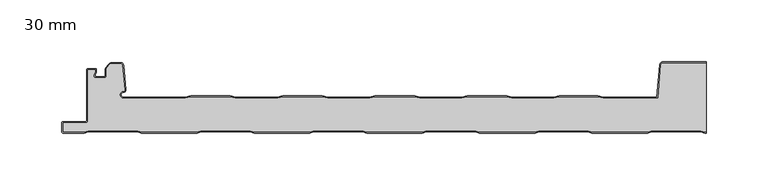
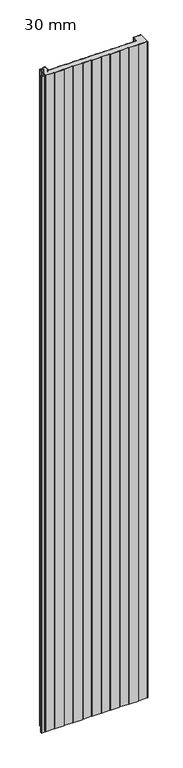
"""IFC4 building model written with IfcOpenShell, lengths in millimetres: plate geometry, HIANSA PANEL - H20.F01.002-PANELES DE CUBIERTA CON TAPAJUNTA - CUB 3GR - Panel de Muro Cortina : 30 mm."""

from ifc_helpers import new_model, si_unit, point, frame_2d, origin, origin_with_axes, place, context, project, spatial, polyline, circle_curve, trimmed, segment, composite_curve, outline, extrude, source, transform, mapped, element, save


def plate_30_mm_d53318d0(model_context):
    return source(origin(), model_context, "Body", "SweptSolid", [
        extrude(outline(polyline([(-236.0046623, 15.4267187), (-236.479984, 16.25), (-236.479984, 29.4251524), (-236.0046623, 30.2484337), (-236.0046623, 15.4267187)])), origin_with_axes(), (0.0, 0.0, 1.0), 3390.8509027),
        extrude(outline(composite_curve([segment(trimmed(circle_curve(frame_2d((-236.9813919, 9.7640482)), 0.998858), [point((-235.982535, 9.7655207))], [point((-236.9813919, 8.7651902))], False, "CARTESIAN"), True, "CONTINUOUS"), segment(polyline([(-236.9813919, 8.7651902), (-255.4768579, 8.7651905)]), True, "CONTINUOUS"), segment(trimmed(circle_curve(frame_2d((-255.4798401, 8.2649415)), 0.5002578), [point((-255.4768579, 8.7651905))], [point((-255.9800979, 8.2649415))], True, "CARTESIAN"), True, "CONTINUOUS"), segment(polyline([(-255.9800979, 8.2649415), (-255.9800979, 1.0000206)]), True, "CONTINUOUS"), segment(trimmed(circle_curve(frame_2d((-255.4800361, 1.0000206)), 0.5000618), [point((-255.9800979, 1.0000206))], [point((-255.4800361, 0.4999588))], True, "CARTESIAN"), True, "CONTINUOUS"), segment(polyline([(-255.4800361, 0.4999588), (-238.321247, 0.4999588), (-235.3211235, 1.5), (-195.1588459, 1.5), (-192.1588459, 0.5), (-147.3211235, 0.5), (-144.3211235, 1.5), (-104.1588459, 1.5), (-101.1588459, 0.5), (-56.3211235, 0.5), (-53.3211235, 1.5), (-13.1588459, 1.5), (-10.1588459, 0.5), (34.6788765, 0.5), (37.6788765, 1.5), (77.8411541, 1.5), (80.8411541, 0.5), (125.6788765, 0.5), (128.6788765, 1.5), (168.8411541, 1.5), (171.8411541, 0.5), (216.6788765, 0.5), (219.6788765, 1.5), (259.8411541, 1.5), (262.8411541, 0.5), (263.9999998, 0.5), (263.9999998, 0.0), (262.7600153, 0.0), (259.7600153, 1.0), (219.7600153, 1.0), (216.7600153, 0.0), (171.7600153, 0.0), (168.7600153, 1.0), (128.7600153, 1.0), (125.7600153, 0.0), (80.7600153, 0.0), (77.7600153, 1.0), (37.7600153, 1.0), (34.7600153, 0.0), (-10.2399847, 0.0), (-13.2399847, 1.0), (-53.2399847, 1.0), (-56.2399847, 0.0), (-101.2399847, 0.0), (-104.2399847, 1.0), (-144.2399847, 1.0), (-147.2399847, 0.0), (-192.2399847, 0.0), (-195.2399847, 1.0), (-235.2399847, 1.0), (-238.2399847, 0.0), (-255.4799847, 0.0)]), True, "CONTINUOUS"), segment(trimmed(circle_curve(frame_2d((-255.4799847, 1.0)), 1.0), [point((-255.4799847, 0.0))], [point((-256.4799847, 1.0))], False, "CARTESIAN"), True, "CONTINUOUS"), segment(polyline([(-256.4799847, 1.0), (-256.4799847, 8.262651)]), True, "CONTINUOUS"), segment(trimmed(circle_curve(frame_2d((-255.4799847, 8.262651)), 1.0), [point((-256.4799847, 8.262651))], [point((-255.4799847, 9.262651))], False, "CARTESIAN"), True, "CONTINUOUS"), segment(polyline([(-255.4799847, 9.262651), (-236.9830391, 9.262651)]), True, "CONTINUOUS"), segment(trimmed(circle_curve(frame_2d((-236.979984, 9.7626416)), 0.5), [point((-236.9830391, 9.262651))], [point((-236.479984, 9.7626416))], True, "CARTESIAN"), True, "CONTINUOUS"), segment(polyline([(-236.479984, 9.7626416), (-236.479984, 16.25), (-235.982535, 15.388393), (-235.982535, 9.7655207)]), True, "CONTINUOUS")], self_intersect=False)), origin_with_axes(), (0.0, 0.0, 1.0), 3390.8509027),
        extrude(outline(composite_curve([segment(polyline([(-230.1607342, 45.8366875), (-230.1607342, 47.1797549), (-229.1700592, 49.1432549), (-229.1700592, 51.48175), (-235.9846472, 51.48175), (-235.9846472, 30.283101), (-236.4799998, 29.425125), (-236.4799998, 51.2318073)]), True, "CONTINUOUS"), segment(trimmed(circle_curve(frame_2d((-235.7368549, 51.2318073)), 0.743145), [point((-236.4799998, 51.2318073))], [point((-235.7922596, 51.972884))], False, "CARTESIAN"), True, "CONTINUOUS"), segment(polyline([(-235.7922596, 51.972884), (-229.417769, 51.972884)]), True, "CONTINUOUS"), segment(trimmed(circle_curve(frame_2d((-229.417769, 51.2297247)), 0.7431593), [point((-229.417769, 51.972884))], [point((-228.6746395, 51.2363816))], False, "CARTESIAN"), True, "CONTINUOUS"), segment(polyline([(-228.6746395, 51.2363816), (-228.6746395, 49.0275379), (-229.6653967, 47.063875), (-229.6653967, 45.59125), (-221.6198597, 45.59125), (-221.6198597, 51.9404769), (-219.4341538, 54.7321629)]), True, "CONTINUOUS"), segment(trimmed(circle_curve(frame_2d((-214.3237108, 51.5831348)), 6.0027498), [point((-219.4341538, 54.7321629))], [point((-216.9668908, 56.972625))], False, "CARTESIAN"), True, "CONTINUOUS"), segment(polyline([(-216.9668908, 56.972625), (-209.1529505, 56.972625)]), True, "CONTINUOUS"), segment(trimmed(circle_curve(frame_2d((-209.1529505, 54.4937014)), 2.4789236), [point((-209.1529505, 56.972625))], [point((-206.6875207, 54.752))], False, "CARTESIAN"), True, "CONTINUOUS"), segment(polyline([(-206.6875207, 54.752), (-204.7873909, 35.068375)]), True, "CONTINUOUS"), segment(trimmed(circle_curve(frame_2d((-206.7403789, 34.8798462)), 1.9620666), [point((-204.7873909, 35.068375))], [point((-206.7597347, 32.917875))], False, "CARTESIAN"), True, "CONTINUOUS"), segment(trimmed(circle_curve(frame_2d((-206.7790605, 30.9589375)), 1.9590328), [point((-206.7597347, 32.917875))], [point((-206.7597347, 29.0))], True, "CARTESIAN"), True, "CONTINUOUS"), segment(polyline([(-206.7597347, 29.0), (-156.7399847, 29.0), (-152.4899847, 30.0), (-120.4299847, 30.0), (-116.1799847, 29.0), (-82.2999847, 29.0), (-78.0499847, 30.0), (-45.9899847, 30.0), (-41.7399847, 29.0), (-7.8599847, 29.0), (-3.6099847, 30.0), (28.4500153, 30.0), (32.7000153, 29.0), (66.5800153, 29.0), (70.8300153, 30.0), (102.8900153, 30.0), (107.1400153, 29.0), (141.0200153, 29.0), (145.2700153, 30.0), (176.6104469, 30.0), (180.8604469, 29.0), (224.3148165, 29.0), (226.6085846, 55.2178894)]), True, "CONTINUOUS"), segment(trimmed(circle_curve(frame_2d((229.0990714, 55.0)), 2.5), [point((226.6085846, 55.2178894))], [point((229.0990714, 57.5))], False, "CARTESIAN"), True, "CONTINUOUS"), segment(polyline([(229.0990714, 57.5), (263.9999998, 57.5), (263.9999998, 57.0), (229.0990714, 57.0)]), True, "CONTINUOUS"), segment(trimmed(circle_curve(frame_2d((229.0990714, 55.0)), 2.0), [point((229.0990714, 57.0))], [point((227.106682, 55.1743115))], True, "CARTESIAN"), True, "CONTINUOUS"), segment(polyline([(227.106682, 55.1743115), (224.7729821, 28.5), (180.8020552, 28.5), (176.5520552, 29.5), (145.3280465, 29.5), (141.0780465, 28.5), (107.0819842, 28.5), (102.8319842, 29.5), (70.8880465, 29.5), (66.6380465, 28.5), (32.6419842, 28.5), (28.3919842, 29.5), (-3.5519535, 29.5), (-7.8019535, 28.5), (-41.7980158, 28.5), (-46.0480158, 29.5), (-77.9919535, 29.5), (-82.2419535, 28.5), (-116.2380158, 28.5), (-120.4880158, 29.5), (-152.4319535, 29.5), (-156.6819535, 28.5), (-206.7597347, 28.5)]), True, "CONTINUOUS"), segment(trimmed(circle_curve(frame_2d((-206.7819467, 30.954375)), 2.4544755), [point((-206.7597347, 28.5))], [point((-206.7597347, 33.40875))], False, "CARTESIAN"), True, "CONTINUOUS"), segment(trimmed(circle_curve(frame_2d((-206.746408, 34.8813199)), 1.4726302), [point((-206.7597347, 33.40875))], [point((-205.2804768, 35.021625))], True, "CARTESIAN"), True, "CONTINUOUS"), segment(polyline([(-205.2804768, 35.021625), (-207.1806067, 54.70525)]), True, "CONTINUOUS"), segment(trimmed(circle_curve(frame_2d((-209.1369286, 54.5163993)), 1.965416), [point((-207.1806067, 54.70525))], [point((-209.1529505, 56.48175))], True, "CARTESIAN"), True, "CONTINUOUS"), segment(polyline([(-209.1529505, 56.48175), (-216.9668908, 56.48175)]), True, "CONTINUOUS"), segment(trimmed(circle_curve(frame_2d((-214.3401447, 51.6061058)), 5.5382039), [point((-216.9668908, 56.48175))], [point((-218.9407012, 54.6893803))], True, "CARTESIAN"), True, "CONTINUOUS"), segment(polyline([(-218.9407012, 54.6893803), (-221.1245222, 51.9404769), (-221.1245222, 45.8366875)]), True, "CONTINUOUS"), segment(trimmed(circle_curve(frame_2d((-221.8608648, 45.8366875)), 0.7363427), [point((-221.1245222, 45.8366875))], [point((-221.8675284, 45.100375))], False, "CARTESIAN"), True, "CONTINUOUS"), segment(polyline([(-221.8675284, 45.100375), (-229.4177279, 45.100375)]), True, "CONTINUOUS"), segment(trimmed(circle_curve(frame_2d((-229.4177279, 45.8434117)), 0.7430367), [point((-229.4177279, 45.100375))], [point((-230.1607342, 45.8366875))], False, "CARTESIAN"), True, "CONTINUOUS")], self_intersect=False)), origin_with_axes(), (0.0, 0.0, 1.0), 3390.8509027),
        extrude(outline(composite_curve([segment(trimmed(circle_curve(frame_2d((-229.4377431, 45.8434117)), 0.7430367), [point((-230.1807493, 45.8366875))], [point((-229.4377431, 45.100375))], True, "CARTESIAN"), True, "CONTINUOUS"), segment(polyline([(-229.4377431, 45.100375), (-221.8875436, 45.100375)]), True, "CONTINUOUS"), segment(trimmed(circle_curve(frame_2d((-221.88088, 45.8366875)), 0.7363427), [point((-221.8875436, 45.100375))], [point((-221.1445373, 45.8366875))], True, "CARTESIAN"), True, "CONTINUOUS"), segment(polyline([(-221.1445373, 45.8366875), (-221.1445373, 51.9404769), (-218.9607164, 54.6893803)]), True, "CONTINUOUS"), segment(trimmed(circle_curve(frame_2d((-214.3601599, 51.6061058)), 5.5382039), [point((-218.9607164, 54.6893803))], [point((-216.986906, 56.48175))], False, "CARTESIAN"), True, "CONTINUOUS"), segment(polyline([(-216.986906, 56.48175), (-209.1729657, 56.48175)]), True, "CONTINUOUS"), segment(trimmed(circle_curve(frame_2d((-209.1569437, 54.5163993)), 1.965416), [point((-209.1729657, 56.48175))], [point((-207.2006218, 54.70525))], False, "CARTESIAN"), True, "CONTINUOUS"), segment(polyline([(-207.2006218, 54.70525), (-205.300492, 35.021625)]), True, "CONTINUOUS"), segment(trimmed(circle_curve(frame_2d((-206.7664232, 34.8813199)), 1.4726302), [point((-205.300492, 35.021625))], [point((-206.7797498, 33.40875))], False, "CARTESIAN"), True, "CONTINUOUS"), segment(trimmed(circle_curve(frame_2d((-206.8019618, 30.954375)), 2.4544755), [point((-206.7797498, 33.40875))], [point((-206.7797498, 28.5))], True, "CARTESIAN"), True, "CONTINUOUS"), segment(polyline([(-206.7797498, 28.5), (-156.7019687, 28.5), (-152.4519687, 29.5), (-120.508031, 29.5), (-116.258031, 28.5), (-82.2619687, 28.5), (-78.0119687, 29.5), (-46.068031, 29.5), (-41.818031, 28.5), (-7.8219687, 28.5), (-3.5719687, 29.5), (28.371969, 29.5), (32.621969, 28.5), (66.6180313, 28.5), (70.8680313, 29.5), (102.811969, 29.5), (107.061969, 28.5), (141.0580313, 28.5), (145.3080313, 29.5), (176.53204, 29.5), (180.78204, 28.5), (224.7529669, 28.5), (227.0866668, 55.1743115)]), True, "CONTINUOUS"), segment(trimmed(circle_curve(frame_2d((229.0790562, 55.0)), 2.0), [point((227.0866668, 55.1743115))], [point((229.0790562, 57.0))], False, "CARTESIAN"), True, "CONTINUOUS"), segment(polyline([(229.0790562, 57.0), (263.9999998, 57.0), (263.9999998, 0.4999588), (262.821139, 0.4999588), (259.821139, 1.4999588), (219.6588613, 1.4999588), (216.6588613, 0.4999588), (171.821139, 0.4999588), (168.821139, 1.4999588), (128.6588613, 1.4999588), (125.6588613, 0.4999588), (80.821139, 0.4999588), (77.821139, 1.4999588), (37.6588613, 1.4999588), (34.6588613, 0.4999588), (-10.178861, 0.4999588), (-13.178861, 1.4999588), (-53.3411387, 1.4999588), (-56.3411387, 0.4999588), (-101.178861, 0.4999588), (-104.178861, 1.4999588), (-144.3411387, 1.4999588), (-147.3411387, 0.4999588), (-192.178861, 0.4999588), (-195.1789845, 1.5), (-235.3411387, 1.5), (-238.3412622, 0.4999588), (-255.5000513, 0.4999588)]), True, "CONTINUOUS"), segment(trimmed(circle_curve(frame_2d((-255.5000513, 1.0000206)), 0.5000618), [point((-255.5000513, 0.4999588))], [point((-256.0001131, 1.0000206))], False, "CARTESIAN"), True, "CONTINUOUS"), segment(polyline([(-256.0001131, 1.0000206), (-256.0001131, 8.2649415)]), True, "CONTINUOUS"), segment(trimmed(circle_curve(frame_2d((-255.4998553, 8.2649415)), 0.5002578), [point((-256.0001131, 8.2649415))], [point((-255.4968731, 8.7651905))], False, "CARTESIAN"), True, "CONTINUOUS"), segment(polyline([(-255.4968731, 8.7651905), (-237.0014071, 8.7651905)]), True, "CONTINUOUS"), segment(trimmed(circle_curve(frame_2d((-237.0014071, 9.7640482)), 0.9988578), [point((-237.0014071, 8.7651905))], [point((-236.0046623, 9.8289851))], True, "CARTESIAN"), True, "CONTINUOUS"), segment(polyline([(-236.0046623, 9.8289851), (-236.0046623, 51.48175), (-229.1900743, 51.48175), (-229.1900743, 49.1432549), (-230.1807493, 47.1797549), (-230.1807493, 45.8366875)]), True, "CONTINUOUS")], self_intersect=False)), origin_with_axes(), (0.0, 0.0, 1.0), 3390.8509027),
    ])


if __name__ == "__main__":
    model = new_model("IFC4")
    model_context = context("Model", 3, world=origin())
    ifc_project = project(units=[si_unit("LENGTHUNIT", "METRE", prefix="MILLI")], contexts=[model_context])
    site = spatial("IfcSite", under=ifc_project)
    building = spatial("IfcBuilding", under=site)
    placement = place(None, origin())
    plate_30_mm_shape = plate_30_mm_d53318d0(model_context)
    element("IfcPlate", 1, ObjectType="HIANSA PANEL - H20.F01.002-PANELES DE CUBIERTA CON TAPAJUNTA - CUB 3GR - Panel de Muro Cortina : 30 mm", at=placement, inside=building, context=model_context, shape_type="MappedRepresentation", body=[
        mapped(plate_30_mm_shape, transform((0.0, 0.0, 0.0), x_axis=(1.0, 0.0, 0.0), y_axis=(0.0, 1.0, 0.0), z_axis=(0.0, 0.0, 1.0))),
    ])
    save(model, "model.ifc")
